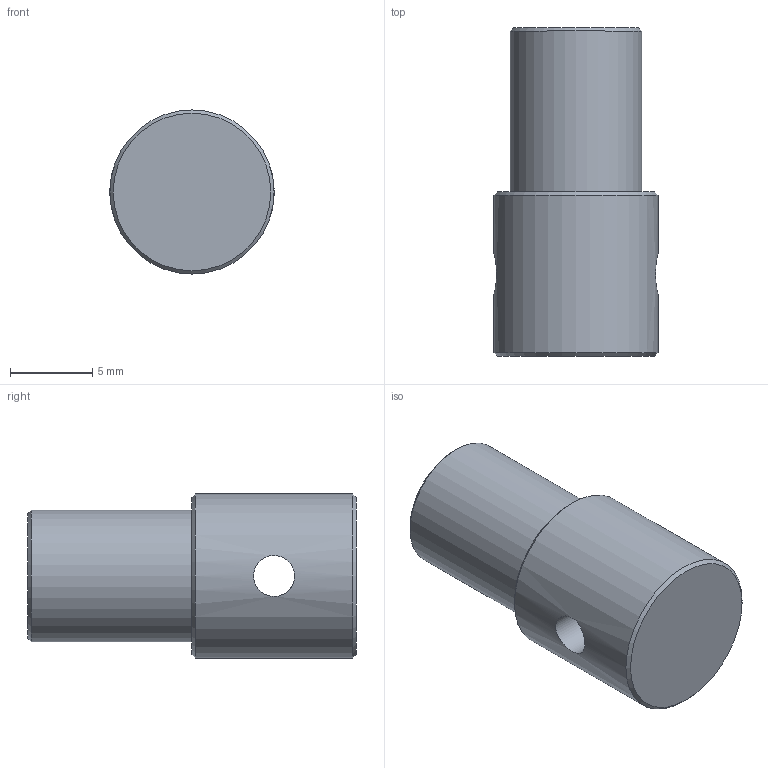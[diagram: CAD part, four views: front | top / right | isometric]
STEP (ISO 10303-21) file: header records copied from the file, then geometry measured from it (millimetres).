
FILE_DESCRIPTION (( 'STEP AP214' ), '1' );
FILE_NAME ('N30186.step', '2024-12-03T16:27:17', ( '' ), ( '' ), 'SwSTEP 2.0', 'SolidWorks 2023', '' );
FILE_SCHEMA (( 'AUTOMOTIVE_DESIGN' ));
Length unit declared in the file: millimetre
Products named in the file (1): N30186
Bounding box: 10 x 20 x 10 mm (x, y, z)
Volume: 1237.6 mm3; surface area: 779.5 mm2
Topology: 1 solids, 1 shells, 9 faces, 18 edges, 12 vertices
Faces by surface type: plane 3, cylinder 3, cone 3
Full cylindrical faces by diameter (mm): 2.5 x1, 8 x1, 10 x1
Entity records: 283 total; most frequent: CARTESIAN_POINT 106, DIRECTION 34, EDGE_LOOP 18, ORIENTED_EDGE 18, AXIS2_PLACEMENT_3D 17, FACE_OUTER_BOUND 12, VERTEX_POINT 9, EDGE_CURVE 9
